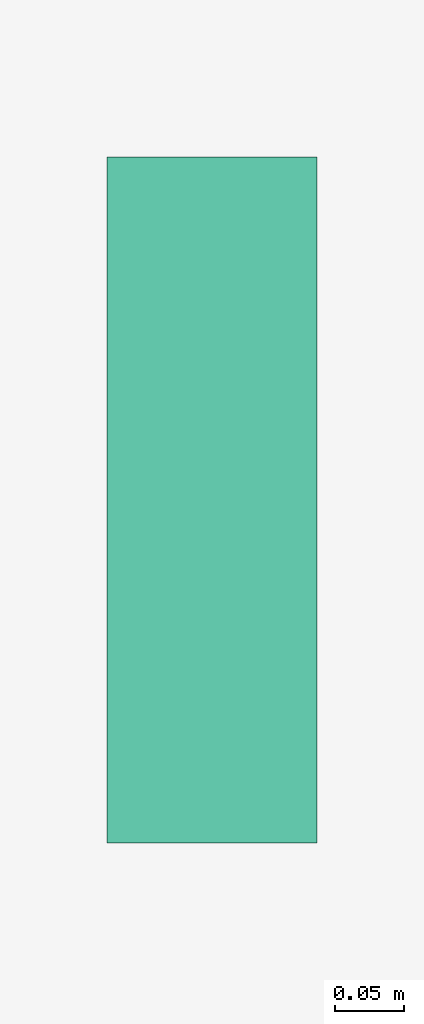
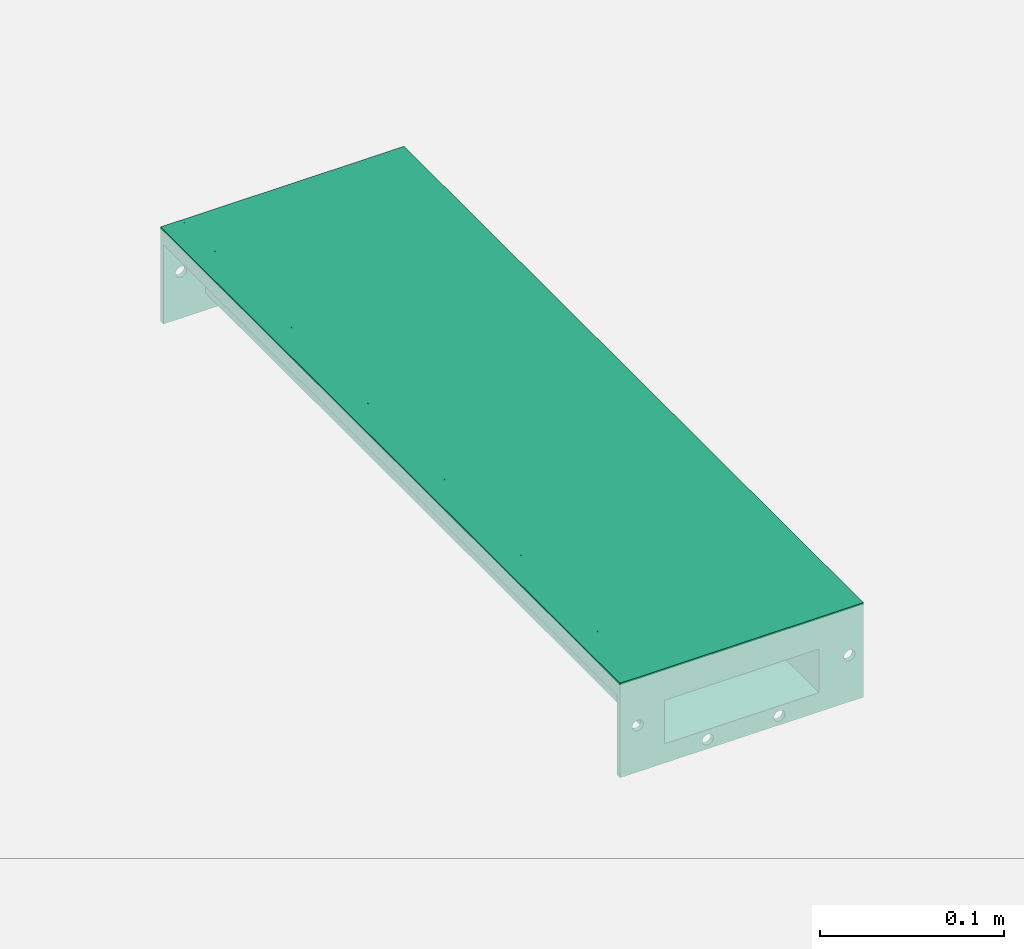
# One storey, part 2 of 2: 1 flow terminal.
"""IFC2X3 building model written with IfcOpenShell, lengths in millimetres."""

from ifc_helpers import new_model, entity, si_unit, converted_unit, direction, frame, frame_2d, origin, origin_2d_with_axis, place, context, subcontext, project, spatial, polyline, circle_curve, parameter, trimmed, segment, composite_curve, rectangle, outline, extrude, source, transform, mapped, material, material_list, element, save


model = new_model("IFC2X3")

# Units and contexts
model_context = context("Model", 3, precision=1e-06, world=origin(), true_north=direction((2.0, 6.12303176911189e-17, 1.0)))
context_of_model = context(None, 3, precision=1e-06, world=origin(), true_north=direction((2.0, 6.12303176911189e-17, 1.0)))
body_context = subcontext(model_context, "Body", "Model", "MODEL_VIEW")
ifc_project = project(units=[si_unit("LENGTHUNIT", "METRE", prefix="MILLI"), si_unit("AREAUNIT", "SQUARE_METRE", prefix="MILLI"), si_unit("VOLUMEUNIT", "CUBIC_METRE", prefix="MILLI"), converted_unit("PLANEANGLEUNIT", "DEGREE", entity("IfcRatioMeasure", 0.0174532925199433), si_unit("PLANEANGLEUNIT", "RADIAN"), dimensions=[0, 0, 0, 0, 0, 0, 0]), si_unit("TIMEUNIT", "SECOND")], contexts=[model_context, context_of_model])

# Site, building, storey
site_placement = place(None, origin())
site = spatial("IfcSite", under=ifc_project, at=site_placement, Name="Default", CompositionType="ELEMENT")
building_placement = place(site_placement, origin())
building = spatial("IfcBuilding", under=site, at=building_placement, CompositionType="ELEMENT")
storey_placement = place(building_placement, origin())
storey = spatial("IfcBuildingStorey", under=building, at=storey_placement, Name="Level 1", CompositionType="ELEMENT", Elevation=0.0)

# Flow terminal
ifc_material_1 = material(Name="Stainless Steel AISI 304")
ifc_material_2 = material(Name="Polystyrene, High Impact (F)")
ifc_material_list = material_list([ifc_material_1, ifc_material_2])
shared_shape = source(origin(), body_context, "Body", "SweptSolid", [
    extrude(rectangle(XDim=500.0, YDim=124.999917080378, at=origin_2d_with_axis()), frame((4.14598109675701e-05, 250.0, -21.0), z_axis=(0.0, 0.0, 1.0), x_axis=(0.0, 1.0, 0.0)), (0.0, 0.0, 1.0), 20.9999999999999),
    extrude(outline(polyline([(-76.5000276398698, -25.8000000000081), (-62.4999447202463, -25.8000000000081), (-62.4999447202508, -4.80000000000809), (-48.4999447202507, -4.80000000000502), (-48.499944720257, 24.199999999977), (48.499972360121, 24.199999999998), (48.4999723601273, -4.7999999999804), (62.4999723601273, -4.7999999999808), (62.4999723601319, -25.7999999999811), (76.4999723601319, -25.7999999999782), (76.4999723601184, 37.0), (-76.5000276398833, 37.0), (-76.5000276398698, -25.8000000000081)]), holes=[composite_curve([segment(trimmed(circle_curve(frame_2d((67.7349848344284, 6.09857254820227), x_axis=(1.0, 0.0)), 3.5), [parameter(0.0)], [parameter(180.0)], True, "PARAMETER"), False, "CONTINUOUS"), segment(trimmed(circle_curve(frame_2d((67.7349848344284, 6.09857254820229), x_axis=(1.0, 0.0)), 3.5), [parameter(180.0)], [parameter(0.0)], True, "PARAMETER"), False, "CONTINUOUS")], self_intersect=False), composite_curve([segment(trimmed(circle_curve(frame_2d((23.7349848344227, 30.9218749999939), x_axis=(1.0, 0.0)), 3.5), [parameter(0.0)], [parameter(180.0)], True, "PARAMETER"), False, "CONTINUOUS"), segment(trimmed(circle_curve(frame_2d((23.7349848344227, 30.9218749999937), x_axis=(1.0, 0.0)), 3.5), [parameter(180.0)], [parameter(0.0)], True, "PARAMETER"), False, "CONTINUOUS")], self_intersect=False), composite_curve([segment(trimmed(circle_curve(frame_2d((-21.2650151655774, 30.921874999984), x_axis=(1.0, 0.0)), 3.5), [parameter(180.0)], [parameter(1.52666624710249e-13)], True, "PARAMETER"), False, "CONTINUOUS"), segment(trimmed(circle_curve(frame_2d((-21.2650151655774, 30.9218749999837), x_axis=(1.0, 0.0)), 3.5), [parameter(360.0)], [parameter(180.0)], True, "PARAMETER"), False, "CONTINUOUS")], self_intersect=False), composite_curve([segment(trimmed(circle_curve(frame_2d((-65.2650151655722, 6.09857254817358), x_axis=(1.0, 0.0)), 3.5), [parameter(180.0)], [parameter(0.0)], True, "PARAMETER"), False, "CONTINUOUS"), segment(trimmed(circle_curve(frame_2d((-65.2650151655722, 6.09857254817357), x_axis=(1.0, 0.0)), 3.5), [parameter(0.0)], [parameter(180.0)], True, "PARAMETER"), False, "CONTINUOUS")], self_intersect=False)]), frame((2.7639875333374e-05, 497.0, -25.8000000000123), z_axis=(0.0, 1.0, 0.0), x_axis=(1.0, 0.0, 0.0)), (0.0, 0.0, 1.0), 2.99999999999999),
    extrude(outline(polyline([(-76.4999585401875, -25.8000013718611), (-62.4999585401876, -25.8000013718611), (-62.4999585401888, -4.80000137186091), (-48.4999585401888, -4.8000013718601), (-48.4999585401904, 24.19999862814), (48.4999585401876, 24.1999986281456), (48.4999585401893, -4.80000137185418), (62.4999585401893, -4.80000137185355), (62.4999585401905, -25.8000013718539), (76.4999585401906, -25.8000013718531), (76.499958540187, 37.0000068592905), (-76.4999585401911, 37.0000068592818), (-76.4999585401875, -25.8000013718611)]), holes=[composite_curve([segment(trimmed(circle_curve(frame_2d((67.7349710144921, 6.09857117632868), x_axis=(1.0, 0.0)), 3.5), [parameter(0.0)], [parameter(180.0)], True, "PARAMETER"), False, "CONTINUOUS"), segment(trimmed(circle_curve(frame_2d((67.7349710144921, 6.0985711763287), x_axis=(1.0, 0.0)), 3.5), [parameter(180.0)], [parameter(360.0)], True, "PARAMETER"), False, "CONTINUOUS")], self_intersect=False), composite_curve([segment(trimmed(circle_curve(frame_2d((23.7349710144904, 30.9218818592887), x_axis=(1.0, 0.0)), 3.5), [parameter(0.0)], [parameter(180.0)], True, "PARAMETER"), False, "CONTINUOUS"), segment(trimmed(circle_curve(frame_2d((23.7349710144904, 30.9218818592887), x_axis=(1.0, 0.0)), 3.5), [parameter(180.0)], [parameter(360.0)], True, "PARAMETER"), False, "CONTINUOUS")], self_intersect=False), composite_curve([segment(trimmed(circle_curve(frame_2d((-21.2650289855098, 30.9218818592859), x_axis=(1.0, 0.0)), 3.5), [parameter(180.0)], [parameter(0.0)], True, "PARAMETER"), False, "CONTINUOUS"), segment(trimmed(circle_curve(frame_2d((-21.2650289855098, 30.9218818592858), x_axis=(1.0, 0.0)), 3.5), [parameter(360.0)], [parameter(180.0)], True, "PARAMETER"), False, "CONTINUOUS")], self_intersect=False), composite_curve([segment(trimmed(circle_curve(frame_2d((-65.2650289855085, 6.09857117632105), x_axis=(1.0, 0.0)), 3.5), [parameter(180.0)], [parameter(360.0)], True, "PARAMETER"), False, "CONTINUOUS"), segment(trimmed(circle_curve(frame_2d((-65.2650289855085, 6.09857117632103), x_axis=(1.0, 0.0)), 3.5), [parameter(0.0)], [parameter(180.0)], True, "PARAMETER"), False, "CONTINUOUS")], self_intersect=False)]), frame((4.14598109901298e-05, 0.0, -25.8000013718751), z_axis=(0.0, 1.0, 0.0), x_axis=(1.0, 0.0, 0.0)), (0.0, 0.0, 1.0), 3.0),
    extrude(outline(polyline([(-17.6243423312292, -62.4999585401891), (-17.6243423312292, -76.499958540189), (-7.62434233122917, -76.499958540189), (-7.62434233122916, -74.999958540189), (-16.1243423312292, -74.999958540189), (-16.1243423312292, -63.9999585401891), (4.87565766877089, -63.9999585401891), (4.87565766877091, -49.999958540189), (33.8717116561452, -49.999958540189), (33.8717116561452, 49.999958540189), (4.87565766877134, 49.999958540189), (4.87565766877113, 63.999958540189), (-16.124342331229, 63.9999585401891), (-16.1243423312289, 74.9999585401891), (-7.62434233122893, 74.9999585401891), (-7.62434233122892, 76.4999585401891), (-17.6243423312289, 76.4999585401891), (-17.624342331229, 62.4999585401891), (3.37565766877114, 62.499958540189), (3.37565766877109, 48.499958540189), (32.3717116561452, 48.499958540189), (32.3717116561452, -48.499958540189), (3.37565766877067, -48.499958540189), (3.37565766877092, -62.4999585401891), (-17.6243423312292, -62.4999585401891)])), frame((4.14598110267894e-05, 3.0, -17.6282883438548), z_axis=(0.0, -1.0, 0.0), x_axis=(0.0, 0.0, -1.0)), (0.0, 0.0, -1.0), 494.0),
    extrude(rectangle(XDim=497.0, YDim=11.0, at=origin_2d_with_axis()), frame((69.5000000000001, 251.5, -10.0), z_axis=(0.0, 0.0, 1.0), x_axis=(0.0, 1.0, 0.0)), (0.0, 0.0, 1.0), 8.50000000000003),
    extrude(rectangle(XDim=497.0, YDim=10.9999999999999, at=origin_2d_with_axis()), frame((-69.499917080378, 251.5, -10.0), z_axis=(0.0, 0.0, 1.0), x_axis=(0.0, 1.0, 0.0)), (0.0, 0.0, 1.0), 8.50000000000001),
])
flow_terminal_placement = place(storey_placement, frame((-147.883287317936, -204.664192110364, 0.0)))
element("IfcFlowTerminal", 1, at=flow_terminal_placement, inside=storey, material=ifc_material_list, Name="ACO BD Modular 125 Level Invert Straight Channels:105119 - Straight Channel - 500mm LG - Invert Depth 50mm:105119 - Straight Channel - 500mm LG - Invert Depth 50mm", ObjectType="105119 - Straight Channel - 500mm LG - Invert Depth 50mm", context=body_context, shape_type="MappedRepresentation", body=[
    mapped(shared_shape, transform((0.0, 0.0, 0.0), scale=1.0)),
])

save(model, "model.ifc")
